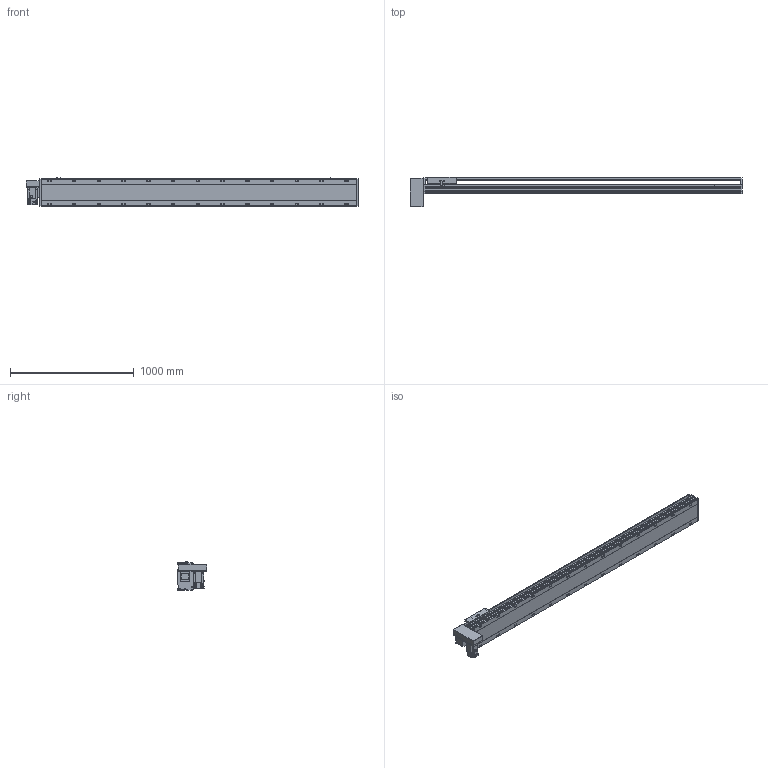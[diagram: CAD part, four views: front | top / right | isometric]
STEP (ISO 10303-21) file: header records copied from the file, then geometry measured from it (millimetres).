
FILE_DESCRIPTION(/* description */ ('STEP AP214'),/* implementation_level */ '2;1');
FILE_NAME(/* name */ 'PBS220-P40-S2200-RD-T75-C1-N(0)',/* time_stamp */ '2022-06-13T02:45:35+02:00',/* author */ ('License CC BY-ND 4.0'),/* organization */ ('CADENAS'),/* preprocessor_version */ 'ST-DEVELOPER v18.102',/* originating_system */ 'PARTsolutions',/* authorisation */ ' ');
FILE_SCHEMA (('AUTOMOTIVE_DESIGN {1 0 10303 214 3 1 1}'));
Length unit declared in the file: millimetre
Products named in the file (7): PBS220-P40-S2200-RD-T75-C1-N(0); PBS220_sensor; PBS220_plant; PBS220_sliser; T75-p1; PBS220T-RD_motors; PBS220-S2200()_body
Assembly tree (8 placements, depth 2):
  PBS220-P40-S2200-RD-T75-C1-N(0)
    PBS220_sensor  x3
    PBS220_plant
    PBS220_sliser
    T75-p1
    PBS220T-RD_motors
    PBS220-S2200()_body
Bounding box: 2684 x 239 x 238.5 mm (x, y, z)
Volume: 37622580.1 mm3; surface area: 3474218 mm2
Topology: 8 solids, 8 shells, 974 faces, 2536 edges, 1648 vertices
Faces by surface type: plane 618, cylinder 306, cone 50
Full cylindrical faces by diameter (mm): 2.013 x4, 4.5 x14, 4.917 x4, 6 x7, 6.647 x8, 8 x10, 8.376 x26, 8.5 x26, 10 x6, 14 x26, 38 x2, 40 x1, 70 x1
Entity records: 27189 total; most frequent: CARTESIAN_POINT 4822, DIRECTION 4725, ORIENTED_EDGE 4286, EDGE_CURVE 2143, AXIS2_PLACEMENT_3D 1685, VERTEX_POINT 1496, LINE 1355, VECTOR 1355
